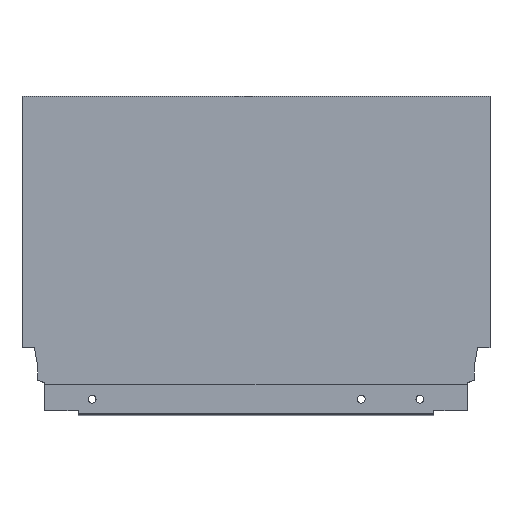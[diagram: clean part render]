
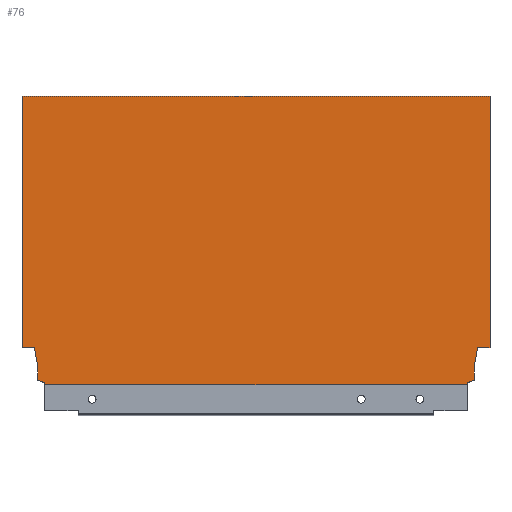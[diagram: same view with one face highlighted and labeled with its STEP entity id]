
A CAD part, top view. The second image highlights one B-rep face of the part: STEP entity #76.
In plain terms, the highlighted planar face has unit normal (0, 0, 1).
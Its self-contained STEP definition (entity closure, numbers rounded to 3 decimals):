
#8 = AXIS2_PLACEMENT_3D ( 'NONE', #320, #327, #330 ) ;
#76 = ADVANCED_FACE ( 'NONE', ( #1035 ), #322, .T. ) ;
#320 = CARTESIAN_POINT ( 'NONE',  ( -267., 0., 7.5 ) ) ;
#322 = PLANE ( 'NONE',  #8 ) ;
#327 = DIRECTION ( 'NONE',  ( 0., 0., 1. ) ) ;
#330 = DIRECTION ( 'NONE',  ( 1., 0., 0. ) ) ;
#371 = CARTESIAN_POINT ( 'NONE',  ( -267., 164.7, 7.5 ) ) ;
#372 = DIRECTION ( 'NONE',  ( -0.174, 0.985, 0. ) ) ;
#382 = DIRECTION ( 'NONE',  ( -0.94, 0.342, 0. ) ) ;
#384 = CARTESIAN_POINT ( 'NONE',  ( -258.1, 2.64, 7.5 ) ) ;
#385 = CARTESIAN_POINT ( 'NONE',  ( -8.9, 10.765, 7.5 ) ) ;
#388 = DIRECTION ( 'NONE',  ( 0., 1., 0. ) ) ;
#389 = CARTESIAN_POINT ( 'NONE',  ( -258.1, 10.765, 7.5 ) ) ;
#404 = VERTEX_POINT ( 'NONE', #691 ) ;
#406 = VERTEX_POINT ( 'NONE', #730 ) ;
#427 = VERTEX_POINT ( 'NONE', #679 ) ;
#430 = VERTEX_POINT ( 'NONE', #676 ) ;
#434 = VERTEX_POINT ( 'NONE', #687 ) ;
#436 = VERTEX_POINT ( 'NONE', #685 ) ;
#440 = VERTEX_POINT ( 'NONE', #674 ) ;
#444 = VERTEX_POINT ( 'NONE', #669 ) ;
#457 = VERTEX_POINT ( 'NONE', #389 ) ;
#458 = VERTEX_POINT ( 'NONE', #371 ) ;
#459 = VERTEX_POINT ( 'NONE', #385 ) ;
#465 = VERTEX_POINT ( 'NONE', #646 ) ;
#468 = VERTEX_POINT ( 'NONE', #649 ) ;
#469 = VERTEX_POINT ( 'NONE', #650 ) ;
#499 = CARTESIAN_POINT ( 'NONE',  ( -267., 0., 7.5 ) ) ;
#501 = CARTESIAN_POINT ( 'NONE',  ( -259.94, 21.2, 7.5 ) ) ;
#507 = CARTESIAN_POINT ( 'NONE',  ( -272., 21.2, 7.5 ) ) ;
#575 = DIRECTION ( 'NONE',  ( -1., 0., 0. ) ) ;
#576 = CARTESIAN_POINT ( 'NONE',  ( -267., 164.7, 7.5 ) ) ;
#577 = DIRECTION ( 'NONE',  ( 0., -1., 0. ) ) ;
#579 = DIRECTION ( 'NONE',  ( 1., 0., 0. ) ) ;
#605 = CARTESIAN_POINT ( 'NONE',  ( 0., 0., 7.5 ) ) ;
#606 = DIRECTION ( 'NONE',  ( -0.94, -0.342, 0. ) ) ;
#607 = CARTESIAN_POINT ( 'NONE',  ( -13.004, 1.146, 7.5 ) ) ;
#608 = DIRECTION ( 'NONE',  ( 0., 1., 0. ) ) ;
#609 = CARTESIAN_POINT ( 'NONE',  ( -258.1, 10.765, 7.5 ) ) ;
#610 = CARTESIAN_POINT ( 'NONE',  ( -8.9, 2.64, 7.5 ) ) ;
#611 = DIRECTION ( 'NONE',  ( 0., -1., 0. ) ) ;
#612 = CARTESIAN_POINT ( 'NONE',  ( 0., 21.2, 7.5 ) ) ;
#613 = DIRECTION ( 'NONE',  ( -0.174, -0.985, 0. ) ) ;
#614 = CARTESIAN_POINT ( 'NONE',  ( -7.06, 21.2, 7.5 ) ) ;
#615 = DIRECTION ( 'NONE',  ( 0., -1., 0. ) ) ;
#617 = DIRECTION ( 'NONE',  ( 0., -1., 0. ) ) ;
#622 = CARTESIAN_POINT ( 'NONE',  ( -267., 0., 7.5 ) ) ;
#626 = CARTESIAN_POINT ( 'NONE',  ( -8.9, 10.765, 7.5 ) ) ;
#627 = DIRECTION ( 'NONE',  ( -1., 0., 0. ) ) ;
#629 = CARTESIAN_POINT ( 'NONE',  ( -253.996, 1.146, 7.5 ) ) ;
#631 = DIRECTION ( 'NONE',  ( 1., 0., 0. ) ) ;
#646 = CARTESIAN_POINT ( 'NONE',  ( -267., 21.2, 7.5 ) ) ;
#649 = CARTESIAN_POINT ( 'NONE',  ( -8.9, 2.64, 7.5 ) ) ;
#650 = CARTESIAN_POINT ( 'NONE',  ( 0., 21.2, 7.5 ) ) ;
#669 = CARTESIAN_POINT ( 'NONE',  ( -7.06, 21.2, 7.5 ) ) ;
#674 = CARTESIAN_POINT ( 'NONE',  ( -13.004, 0., 7.5 ) ) ;
#676 = CARTESIAN_POINT ( 'NONE',  ( 0., 164.7, 7.5 ) ) ;
#679 = CARTESIAN_POINT ( 'NONE',  ( -259.94, 21.2, 7.5 ) ) ;
#685 = CARTESIAN_POINT ( 'NONE',  ( -258.1, 2.64, 7.5 ) ) ;
#687 = CARTESIAN_POINT ( 'NONE',  ( -253.996, 0., 7.5 ) ) ;
#691 = CARTESIAN_POINT ( 'NONE',  ( -13.004, 1.146, 7.5 ) ) ;
#730 = CARTESIAN_POINT ( 'NONE',  ( -253.996, 1.146, 7.5 ) ) ;
#755 = EDGE_CURVE ( 'NONE', #434, #440, #973, .T. ) ;
#756 = EDGE_CURVE ( 'NONE', #434, #406, #979, .T. ) ;
#757 = EDGE_CURVE ( 'NONE', #457, #427, #969, .T. ) ;
#759 = EDGE_CURVE ( 'NONE', #406, #436, #965, .T. ) ;
#760 = EDGE_CURVE ( 'NONE', #427, #465, #975, .T. ) ;
#761 = EDGE_CURVE ( 'NONE', #458, #465, #970, .T. ) ;
#762 = EDGE_CURVE ( 'NONE', #436, #457, #959, .T. ) ;
#763 = EDGE_CURVE ( 'NONE', #459, #468, #966, .T. ) ;
#764 = EDGE_CURVE ( 'NONE', #404, #440, #962, .T. ) ;
#765 = EDGE_CURVE ( 'NONE', #444, #459, #953, .T. ) ;
#766 = EDGE_CURVE ( 'NONE', #468, #404, #960, .T. ) ;
#767 = EDGE_CURVE ( 'NONE', #469, #444, #956, .T. ) ;
#768 = EDGE_CURVE ( 'NONE', #430, #469, #954, .T. ) ;
#769 = EDGE_CURVE ( 'NONE', #458, #430, #950, .T. ) ;
#945 = VECTOR ( 'NONE', #579, 1000. ) ;
#947 = VECTOR ( 'NONE', #577, 1000. ) ;
#949 = VECTOR ( 'NONE', #575, 1000. ) ;
#950 = LINE ( 'NONE', #576, #945 ) ;
#951 = VECTOR ( 'NONE', #606, 1000. ) ;
#952 = VECTOR ( 'NONE', #613, 1000. ) ;
#953 = LINE ( 'NONE', #614, #952 ) ;
#954 = LINE ( 'NONE', #605, #947 ) ;
#955 = VECTOR ( 'NONE', #615, 1000. ) ;
#956 = LINE ( 'NONE', #612, #949 ) ;
#957 = VECTOR ( 'NONE', #611, 1000. ) ;
#958 = VECTOR ( 'NONE', #608, 1000. ) ;
#959 = LINE ( 'NONE', #609, #958 ) ;
#960 = LINE ( 'NONE', #610, #951 ) ;
#961 = VECTOR ( 'NONE', #617, 1000. ) ;
#962 = LINE ( 'NONE', #607, #955 ) ;
#963 = VECTOR ( 'NONE', #627, 1000. ) ;
#964 = VECTOR ( 'NONE', #382, 1000. ) ;
#965 = LINE ( 'NONE', #384, #964 ) ;
#966 = LINE ( 'NONE', #626, #957 ) ;
#968 = VECTOR ( 'NONE', #372, 1000. ) ;
#969 = LINE ( 'NONE', #501, #968 ) ;
#970 = LINE ( 'NONE', #499, #961 ) ;
#971 = VECTOR ( 'NONE', #388, 1000. ) ;
#973 = LINE ( 'NONE', #622, #976 ) ;
#975 = LINE ( 'NONE', #507, #963 ) ;
#976 = VECTOR ( 'NONE', #631, 1000. ) ;
#979 = LINE ( 'NONE', #629, #971 ) ;
#1035 = FACE_OUTER_BOUND ( 'NONE', #1090, .T. ) ;
#1090 = EDGE_LOOP ( 'NONE', ( #1254, #1255, #1256, #1251, #1252, #1335, #1336, #1339, #1334, #1277, #1250, #1271, #1270, #1253 ) ) ;
#1250 = ORIENTED_EDGE ( 'NONE', *, *, #765, .F. ) ;
#1251 = ORIENTED_EDGE ( 'NONE', *, *, #762, .F. ) ;
#1252 = ORIENTED_EDGE ( 'NONE', *, *, #759, .F. ) ;
#1253 = ORIENTED_EDGE ( 'NONE', *, *, #769, .F. ) ;
#1254 = ORIENTED_EDGE ( 'NONE', *, *, #761, .T. ) ;
#1255 = ORIENTED_EDGE ( 'NONE', *, *, #760, .F. ) ;
#1256 = ORIENTED_EDGE ( 'NONE', *, *, #757, .F. ) ;
#1270 = ORIENTED_EDGE ( 'NONE', *, *, #768, .F. ) ;
#1271 = ORIENTED_EDGE ( 'NONE', *, *, #767, .F. ) ;
#1277 = ORIENTED_EDGE ( 'NONE', *, *, #763, .F. ) ;
#1334 = ORIENTED_EDGE ( 'NONE', *, *, #766, .F. ) ;
#1335 = ORIENTED_EDGE ( 'NONE', *, *, #756, .F. ) ;
#1336 = ORIENTED_EDGE ( 'NONE', *, *, #755, .T. ) ;
#1339 = ORIENTED_EDGE ( 'NONE', *, *, #764, .F. ) ;
